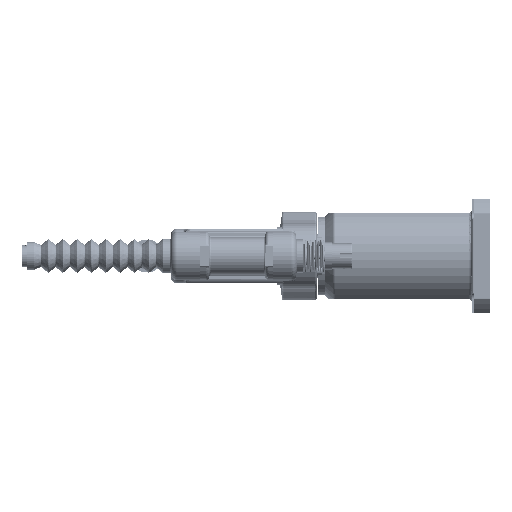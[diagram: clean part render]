
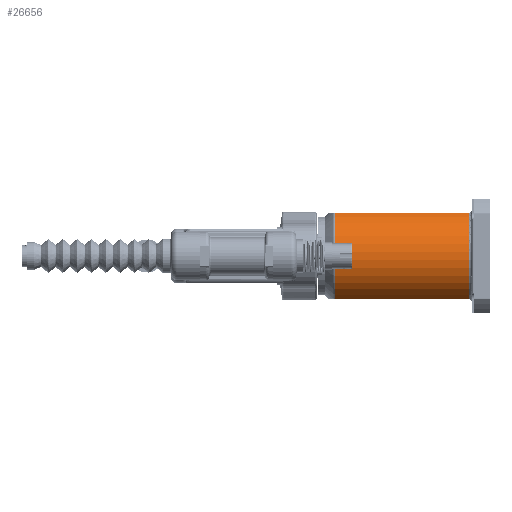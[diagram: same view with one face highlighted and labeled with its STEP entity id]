
A CAD part, left-side view. The second image highlights one B-rep face of the part: STEP entity #26656.
In plain terms, the highlighted cylindrical face has radius 67.5 mm (diameter 135 mm), a partial arc.
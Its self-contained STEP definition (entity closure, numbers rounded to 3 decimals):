
#4943 = DIRECTION ( 'NONE',  ( 0., -1., 0. ) ) ;
#9972 = CARTESIAN_POINT ( 'NONE',  ( -31.108, 230., 59.904 ) ) ;
#16896 = CARTESIAN_POINT ( 'NONE',  ( -31.108, 215.929, 59.904 ) ) ;
#17345 = CARTESIAN_POINT ( 'NONE',  ( 0., 215.929, 0. ) ) ;
#26656 = ADVANCED_FACE ( 'NONE', ( #167040 ), #131184, .T. ) ;
#27747 = VECTOR ( 'NONE', #38304, 1000. ) ;
#29923 = VERTEX_POINT ( 'NONE', #67146 ) ;
#34975 = CIRCLE ( 'NONE', #140663, 67.5 ) ;
#36007 = EDGE_CURVE ( 'NONE', #84709, #29923, #34975, .T. ) ;
#37964 = DIRECTION ( 'NONE',  ( 1., 0., 0. ) ) ;
#38304 = DIRECTION ( 'NONE',  ( 0., -1., 0. ) ) ;
#42463 = EDGE_CURVE ( 'NONE', #47639, #159194, #66499, .T. ) ;
#47639 = VERTEX_POINT ( 'NONE', #16896 ) ;
#52140 = DIRECTION ( 'NONE',  ( 0., 1., 0. ) ) ;
#63797 = LINE ( 'NONE', #105077, #27747 ) ;
#65255 = VECTOR ( 'NONE', #144211, 1000. ) ;
#66499 = CIRCLE ( 'NONE', #112478, 67.5 ) ;
#67146 = CARTESIAN_POINT ( 'NONE',  ( -31.108, 30., 59.904 ) ) ;
#67659 = AXIS2_PLACEMENT_3D ( 'NONE', #68139, #82342, #123079 ) ;
#68139 = CARTESIAN_POINT ( 'NONE',  ( 0., 230., 0. ) ) ;
#74267 = EDGE_CURVE ( 'NONE', #29923, #47639, #99101, .T. ) ;
#82342 = DIRECTION ( 'NONE',  ( 0., 1., 0. ) ) ;
#84709 = VERTEX_POINT ( 'NONE', #103677 ) ;
#91060 = ORIENTED_EDGE ( 'NONE', *, *, #108899, .T. ) ;
#99101 = LINE ( 'NONE', #9972, #65255 ) ;
#102027 = ORIENTED_EDGE ( 'NONE', *, *, #36007, .T. ) ;
#103677 = CARTESIAN_POINT ( 'NONE',  ( -31.108, 30., -59.904 ) ) ;
#104828 = CARTESIAN_POINT ( 'NONE',  ( -31.108, 215.929, -59.904 ) ) ;
#105077 = CARTESIAN_POINT ( 'NONE',  ( -31.108, 230., -59.904 ) ) ;
#108899 = EDGE_CURVE ( 'NONE', #159194, #84709, #63797, .T. ) ;
#111573 = EDGE_LOOP ( 'NONE', ( #133024, #91060, #102027, #116620 ) ) ;
#112478 = AXIS2_PLACEMENT_3D ( 'NONE', #17345, #4943, #126753 ) ;
#116620 = ORIENTED_EDGE ( 'NONE', *, *, #74267, .T. ) ;
#123079 = DIRECTION ( 'NONE',  ( -1., 0., 0. ) ) ;
#126753 = DIRECTION ( 'NONE',  ( -1., 0., 0. ) ) ;
#131184 = CYLINDRICAL_SURFACE ( 'NONE', #67659, 67.5 ) ;
#133024 = ORIENTED_EDGE ( 'NONE', *, *, #42463, .T. ) ;
#140663 = AXIS2_PLACEMENT_3D ( 'NONE', #158995, #52140, #37964 ) ;
#144211 = DIRECTION ( 'NONE',  ( 0., 1., 0. ) ) ;
#158995 = CARTESIAN_POINT ( 'NONE',  ( 0., 30., 0. ) ) ;
#159194 = VERTEX_POINT ( 'NONE', #104828 ) ;
#167040 = FACE_OUTER_BOUND ( 'NONE', #111573, .T. ) ;
